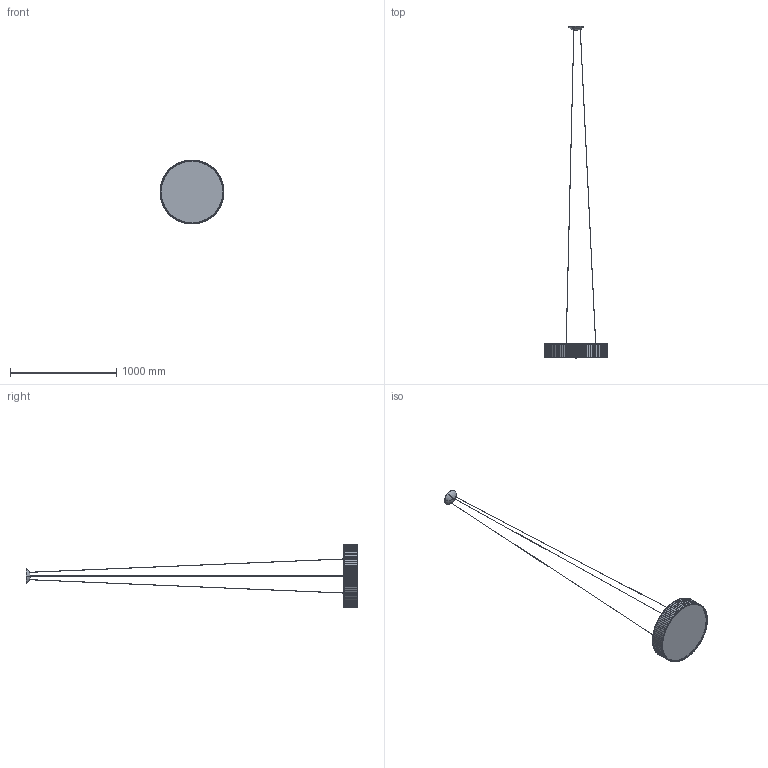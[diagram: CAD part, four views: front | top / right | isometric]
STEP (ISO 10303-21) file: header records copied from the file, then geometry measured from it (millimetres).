
FILE_DESCRIPTION (( 'STEP AP203' ), '1' );
FILE_NAME ('SPTES060POXXXXX-PER 3D.STEP', '2025-06-25T10:49:31', ( '' ), ( '' ), 'SwSTEP 2.0', 'SolidWorks 2024', '' );
FILE_SCHEMA (( 'CONFIG_CONTROL_DESIGN' ));
Length unit declared in the file: millimetre
Products named in the file (8): WSCA01193000B2830B; MSPTESSYØ60-LED; TSPTESSYP60DWBC; WSASS-000000001-28; WSCM2J0001-0028-00; SPTES060POXXXXX-PER 3D; RIVESTIMENTO PONGÈ PARALUME Ø600; PSPPLTESSY60H13PON-01
Assembly tree (108 placements, depth 4):
  SPTES060POXXXXX-PER 3D
    PSPPLTESSY60H13PON-01
      RIVESTIMENTO PONGÈ PARALUME Ø600  x100
    MSPTESSYØ60-LED
      WSCA01193000B2830B  x3
      WSASS-000000001-28
        WSCM2J0001-0028-00
    TSPTESSYP60DWBC
Bounding box: 601.96 x 3126.58 x 601.96 mm (x, y, z)
Volume: 594579.4 mm3; surface area: 1819663.1 mm2
Topology: 106 solids, 106 shells, 1083 faces, 2594 edges, 1724 vertices
Faces by surface type: torus 422, cylinder 421, plane 238, cone 2
Entity records: 6749 total; most frequent: CARTESIAN_POINT 868, DIRECTION 636, ORIENTED_EDGE 388, AXIS2_PLACEMENT_3D 281, CALENDAR_DATE 256, DATE_AND_TIME 256, LOCAL_TIME 256, COORDINATED_UNIVERSAL_TIME_OFFSET 256
